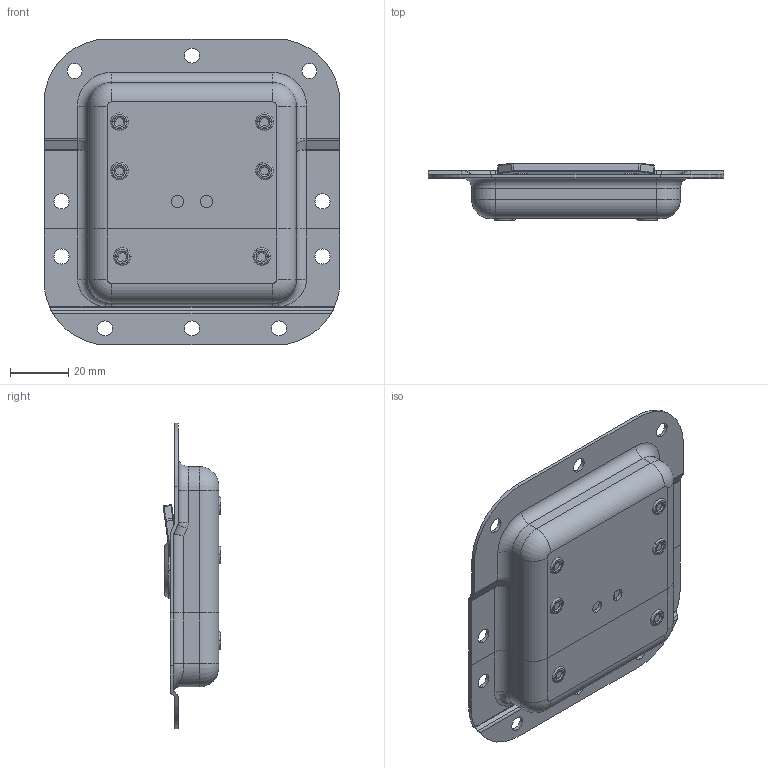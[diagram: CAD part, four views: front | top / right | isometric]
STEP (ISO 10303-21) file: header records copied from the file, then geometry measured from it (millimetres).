
FILE_DESCRIPTION (( 'STEP AP214' ), '1' );
FILE_NAME ('Penn Elcom-L907-928.STEP', '2019-01-14T12:45:12', ( '' ), ( '' ), 'SwSTEP 2.0', 'SolidWorks 2018', '' );
FILE_SCHEMA (( 'AUTOMOTIVE_DESIGN' ));
Length unit declared in the file: millimetre
Products named in the file (5): Penn Elcom-L907-928; Penn Elcom-L907-928_L0928-CP; Penn Elcom-L907-928_MediumSplitDish-Bottom_D928-907; Penn Elcom-L907-928_MediumSplitDish-Top_D928-907; Penn Elcom-L907-928_L0928
Assembly tree (4 placements, depth 2):
  Penn Elcom-L907-928
    Penn Elcom-L907-928_MediumSplitDish-Bottom_D928-907
    Penn Elcom-L907-928_MediumSplitDish-Top_D928-907
    Penn Elcom-L907-928_L0928-CP
    Penn Elcom-L907-928_L0928
Bounding box: 102 x 19.85 x 105.5 mm (x, y, z)
Volume: 15679.9 mm3; surface area: 46358.8 mm2
Topology: 2 solids, 36 shells, 640 faces, 1661 edges, 1045 vertices
Faces by surface type: cylinder 242, plane 200, torus 129, bspline 47, sphere 16, cone 6
Entity records: 27789 total; most frequent: CARTESIAN_POINT 6711, DIRECTION 3463, ORIENTED_EDGE 3052, EDGE_CURVE 1657, AXIS2_PLACEMENT_3D 1387, VERTEX_POINT 1045, CIRCLE 786, EDGE_LOOP 719
